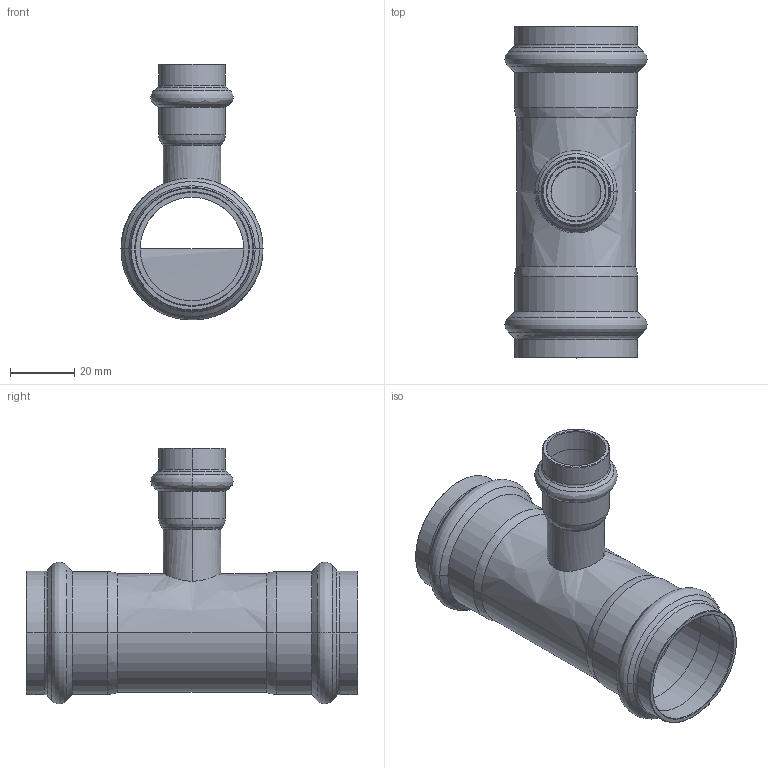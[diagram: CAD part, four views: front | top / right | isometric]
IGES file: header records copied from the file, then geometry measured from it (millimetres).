
Start section: Elysium IGES Interface
Global section: file name: C:\3d modellen sudo\C-Pr VP\SP8130RV\8130RVW351835.igs; native system: CoCreate Modeling 17.00A  17-Jun-2010; preprocessor: CoCreate IGES_3D V2.2; author: Unknown; organization: Unknown; date: 20130131.144053; units: millimetre
Bounding box: 44.3 x 103.51 x 79.83 mm (x, y, z)
Volume: 25620.6 mm3; surface area: 29974.5 mm2
Topology: 1 solids, 1 shells, 124 faces, 264 edges, 142 vertices
Faces by surface type: bspline 124
